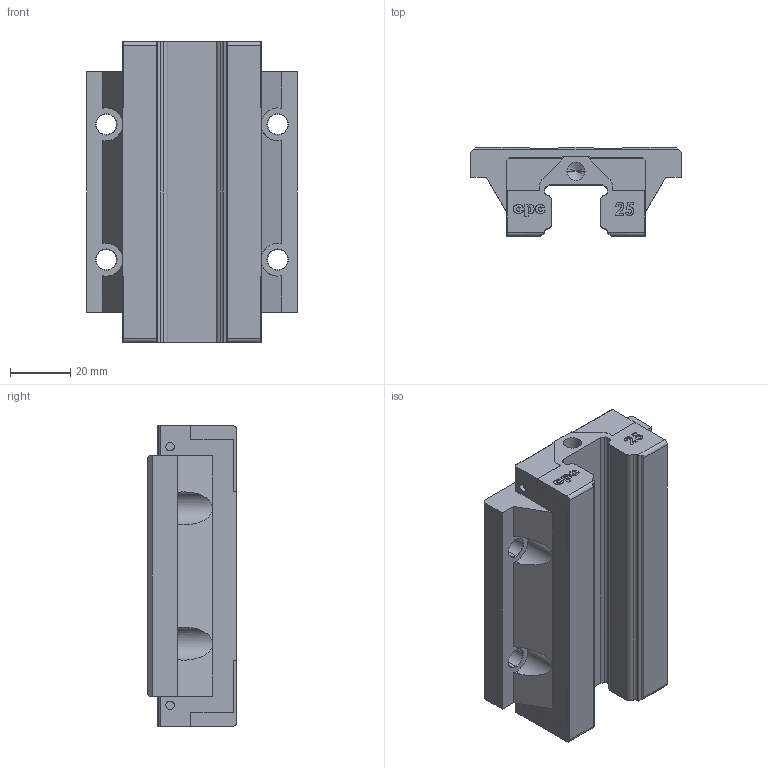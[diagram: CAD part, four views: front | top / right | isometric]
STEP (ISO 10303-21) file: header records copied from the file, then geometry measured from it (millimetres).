
FILE_DESCRIPTION (( 'STEP AP203' ), '1' );
FILE_NAME ('HR25FL.STEP', '2009-08-04T05:30:41', ( 'cpc' ), ( '' ), 'SwSTEP 2.0', 'SolidWorks 2007', '' );
FILE_SCHEMA (( 'CONFIG_CONTROL_DESIGN' ));
Length unit declared in the file: millimetre
Products named in the file (1): HR25FL
Bounding box: 70 x 29.6 x 100.2 mm (x, y, z)
Volume: 124037.3 mm3; surface area: 25415.8 mm2
Topology: 1 solids, 1 shells, 324 faces, 882 edges, 578 vertices
Faces by surface type: plane 154, bspline 86, cylinder 64, cone 20
Entity records: 14570 total; most frequent: CARTESIAN_POINT 6886, ORIENTED_EDGE 1756, DIRECTION 1272, EDGE_CURVE 878, VERTEX_POINT 578, VECTOR 554, LINE 554, AXIS2_PLACEMENT_3D 359
